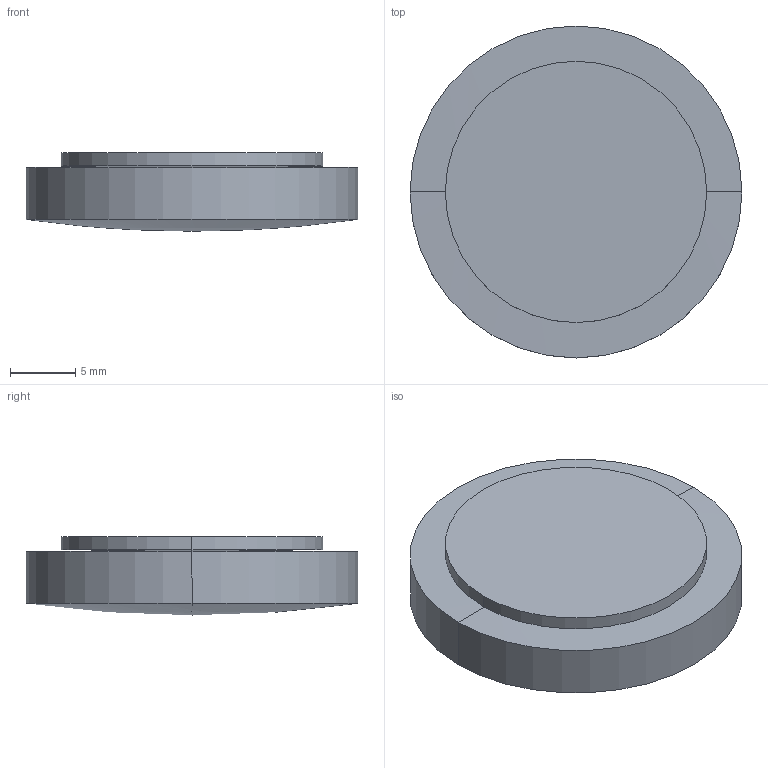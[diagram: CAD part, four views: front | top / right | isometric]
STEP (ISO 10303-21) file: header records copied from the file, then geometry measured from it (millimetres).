
FILE_DESCRIPTION(('STEP AP214'),'1');
FILE_NAME('LLU-25160.STEP','2020-03-09T17:42:09',(' '),(' '),'Spatial InterOp 3D',' ',' ');
FILE_SCHEMA(('AUTOMOTIVE_DESIGN { 1 0 10303 214 1 1 1 1 }'));
Length unit declared in the file: millimetre
Products named in the file (1): 1
Bounding box: 25.4 x 25.4 x 6 mm (x, y, z)
Volume: 2586.7 mm3; surface area: 2023.8 mm2
Topology: 2 solids, 2 shells, 10 faces, 20 edges, 10 vertices
Faces by surface type: sphere 4, cylinder 4, plane 2
Entity records: 255 total; most frequent: DIRECTION 52, CARTESIAN_POINT 38, ORIENTED_EDGE 32, AXIS2_PLACEMENT_3D 24, EDGE_CURVE 16, CIRCLE 12, ADVANCED_FACE 10, FACE_OUTER_BOUND 10
